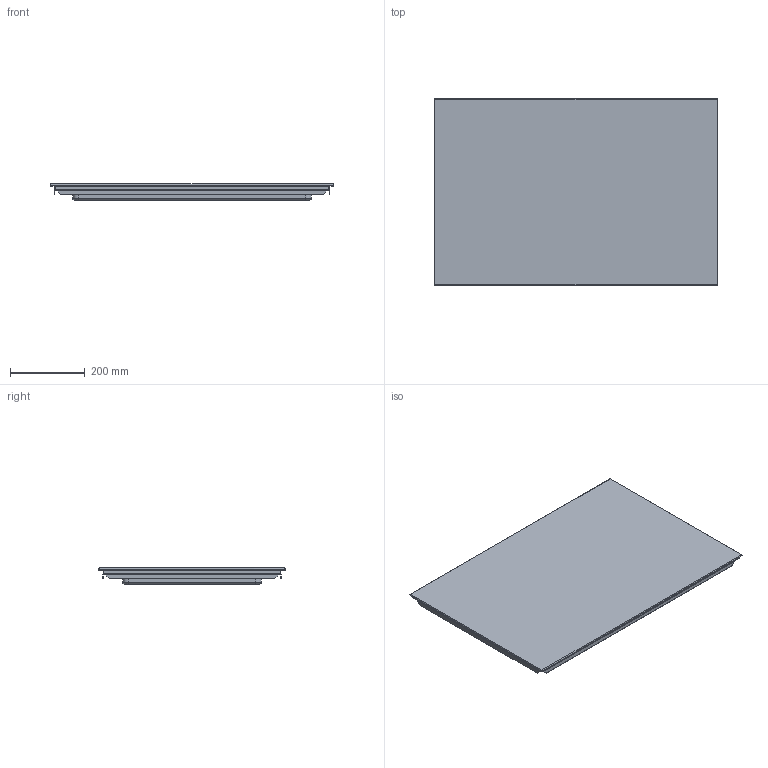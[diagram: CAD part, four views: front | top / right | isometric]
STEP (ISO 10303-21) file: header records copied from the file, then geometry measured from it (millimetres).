
FILE_DESCRIPTION(('CATIA V5 STEP Exchange'),'2;1');
FILE_NAME('P:\CATIA-UserDaten\3D Planungsdaten\GK\test\3102600402.stp','2013-09-05T16:04:56+00:00',('none'),('none'),'CATIA Version 5 Release 21 SP 3 (IN-10)','CATIA V5 STEP AP214','none');
FILE_SCHEMA(('AUTOMOTIVE_DESIGN { 1 0 10303 214 1 1 1 1 }'));
Length unit declared in the file: millimetre
Products named in the file (1): 3102600402
Bounding box: 761 x 501 x 43.5 mm (x, y, z)
Volume: 8382717.2 mm3; surface area: 2169451.7 mm2
Topology: 4 solids, 4 shells, 89 faces, 224 edges, 144 vertices
Faces by surface type: plane 41, cylinder 32, cone 8, revolution 4, torus 4
Entity records: 2827 total; most frequent: CARTESIAN_POINT 728, ORIENTED_EDGE 448, DIRECTION 356, EDGE_CURVE 224, VERTEX_POINT 144, AXIS2_PLACEMENT_3D 139, VECTOR 132, LINE 132
